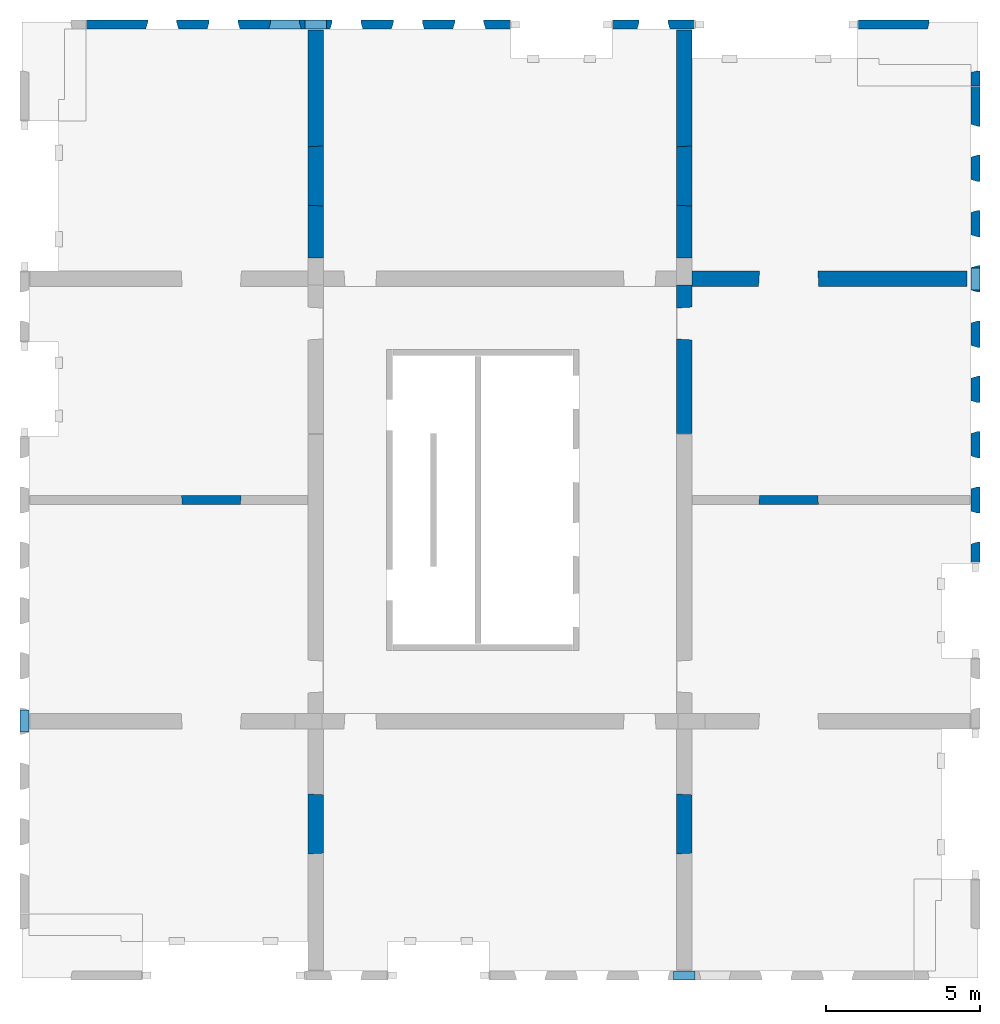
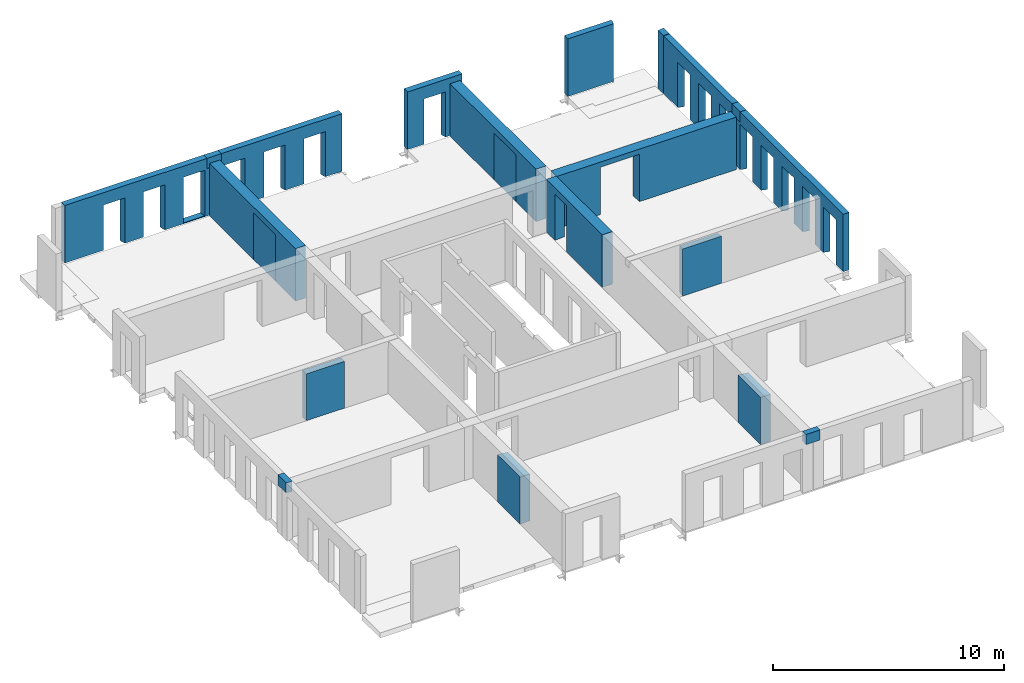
# One storey, part 4 of 4: 21 walls, 25 openings.
"""IFC2X3 building model written with IfcOpenShell, lengths in millimetres."""

from ifc_helpers import new_model, entity, si_unit, converted_unit, derived_unit, direction, frame, frame_2d, origin, place, context, subcontext, project, spatial, rectangle, extrude, faceted_brep, material, layer, layer_set, layer_usage, type_object, element, save


model = new_model("IFC2X3")

# Units and contexts
model_context = context("Model", 3, precision=0.01, world=origin(), true_north=direction((6.12303176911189e-17, 1.0)))
body_context = subcontext(model_context, "Body", "Model", "MODEL_VIEW")
ifc_project = project(units=[si_unit("LENGTHUNIT", "METRE", prefix="MILLI"), si_unit("AREAUNIT", "SQUARE_METRE"), si_unit("VOLUMEUNIT", "CUBIC_METRE"), converted_unit("PLANEANGLEUNIT", "DEGREE", entity("IfcRatioMeasure", 0.0174532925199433), si_unit("PLANEANGLEUNIT", "RADIAN"), dimensions=[0, 0, 0, 0, 0, 0, 0]), si_unit("MASSUNIT", "GRAM", prefix="KILO"), derived_unit("MASSDENSITYUNIT", [(si_unit("MASSUNIT", "GRAM", prefix="KILO"), 1), (si_unit("LENGTHUNIT", "METRE"), -3)]), si_unit("TIMEUNIT", "SECOND"), si_unit("FREQUENCYUNIT", "HERTZ"), si_unit("THERMODYNAMICTEMPERATUREUNIT", "DEGREE_CELSIUS"), derived_unit("THERMALTRANSMITTANCEUNIT", [(si_unit("MASSUNIT", "GRAM", prefix="KILO"), 1), (si_unit("THERMODYNAMICTEMPERATUREUNIT", "KELVIN"), -1), (si_unit("TIMEUNIT", "SECOND"), -3)]), derived_unit("VOLUMETRICFLOWRATEUNIT", [(si_unit("LENGTHUNIT", "METRE"), 3), (si_unit("TIMEUNIT", "SECOND"), -1)]), si_unit("ELECTRICCURRENTUNIT", "AMPERE"), si_unit("ELECTRICVOLTAGEUNIT", "VOLT"), si_unit("POWERUNIT", "WATT"), si_unit("FORCEUNIT", "NEWTON", prefix="KILO"), si_unit("ILLUMINANCEUNIT", "LUX"), si_unit("LUMINOUSFLUXUNIT", "LUMEN"), si_unit("LUMINOUSINTENSITYUNIT", "CANDELA"), derived_unit("USERDEFINED", [(si_unit("MASSUNIT", "GRAM", prefix="KILO"), -1), (si_unit("LENGTHUNIT", "METRE"), -2), (si_unit("TIMEUNIT", "SECOND"), 3), (si_unit("LUMINOUSFLUXUNIT", "LUMEN"), 1)]), derived_unit("LINEARVELOCITYUNIT", [(si_unit("LENGTHUNIT", "METRE"), 1), (si_unit("TIMEUNIT", "SECOND"), -1)]), si_unit("PRESSUREUNIT", "PASCAL"), derived_unit("USERDEFINED", [(si_unit("LENGTHUNIT", "METRE"), -2), (si_unit("MASSUNIT", "GRAM", prefix="KILO"), 1), (si_unit("TIMEUNIT", "SECOND"), -2)])], contexts=[model_context])

# Site, building, storey
site_placement = place(None, origin())
site = spatial("IfcSite", under=ifc_project, at=site_placement, Name="Default", CompositionType="ELEMENT")
building_placement = place(site_placement, origin())
building = spatial("IfcBuilding", under=site, at=building_placement, Name="niet gebruiken", CompositionType="ELEMENT")
storey_placement = place(building_placement, frame((0.0, 0.0, 63900.0)))
storey = spatial("IfcBuildingStorey", under=building, at=storey_placement, Name="20 twintigste verdieping", CompositionType="ELEMENT", Elevation=63900.0000000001)

# Walls
ifc_material_1 = material(Name="NLRS_f2_beton ihwg")
ifc_layer_1 = layer(ifc_material_1, 300.0)
ifc_layer_set_1 = layer_set([ifc_layer_1], Name="Basic Wall:NLRS_21.21_WA_beton ihwg d=300_gen")
ifc_layer_usage_1 = layer_usage(ifc_layer_set_1, "AXIS2", "NEGATIVE", 150.0)
wall_type_1 = type_object("IfcWallType", Name="Basic Wall:NLRS_21.21_WA_beton ihwg d=300_gen", PredefinedType="STANDARD", material=ifc_layer_set_1)
wall_1_placement = place(storey_placement, frame((148105.0, 2020.0, 2455.0), z_axis=(0.0, 0.0, 1.0), x_axis=(-1.0, 0.0, 0.0)))
element("IfcWallStandardCase", 1, at=wall_1_placement, inside=storey, type_object=wall_type_1, material=ifc_layer_usage_1, Name="Basic Wall:NLRS_21.21_WA_beton ihwg d=300_gen", ObjectType="Basic Wall:NLRS_21.21_WA_beton ihwg d=300_gen", context=body_context, shape_type="SweptSolid", body=[
    extrude(rectangle(XDim=710.000000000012, YDim=300.0, at=frame_2d((355.000000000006, -1.4210854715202e-14), x_axis=(-1.0, 0.0))), origin(), (0.0, 0.0, 1.0), 535.0),
])
ifc_layer_usage_2 = layer_usage(ifc_layer_set_1, "AXIS2", "NEGATIVE", 150.0)
wall_2_placement = place(storey_placement, frame((135395.0, 32980.0, 2455.0)))
element("IfcWallStandardCase", 2, at=wall_2_placement, inside=storey, type_object=wall_type_1, material=ifc_layer_usage_2, Name="Basic Wall:NLRS_21.21_WA_beton ihwg d=300_gen", ObjectType="Basic Wall:NLRS_21.21_WA_beton ihwg d=300_gen", context=body_context, shape_type="SweptSolid", body=[
    extrude(rectangle(XDim=710.000000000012, YDim=300.000000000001, at=frame_2d((355.000000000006, 0.0), x_axis=(-1.0, 0.0))), origin(), (0.0, 0.0, 1.0), 535.0),
])
ifc_layer_usage_3 = layer_usage(ifc_layer_set_1, "AXIS2", "NEGATIVE", 150.0)
wall_3_placement = place(storey_placement, frame((157230.0, 25055.0, 2455.0), z_axis=(0.0, 0.0, 1.0), x_axis=(0.0, -1.0, 0.0)))
element("IfcWallStandardCase", 3, at=wall_3_placement, inside=storey, type_object=wall_type_1, material=ifc_layer_usage_3, Name="Basic Wall:NLRS_21.21_WA_beton ihwg d=300_gen", ObjectType="Basic Wall:NLRS_21.21_WA_beton ihwg d=300_gen", context=body_context, shape_type="SweptSolid", body=[
    extrude(rectangle(XDim=710.000000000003, YDim=300.000000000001, at=frame_2d((355.000000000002, 9.9475983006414e-13), x_axis=(-1.0, 0.0))), origin(), (0.0, 0.0, 1.0), 535.0),
])
ifc_layer_usage_4 = layer_usage(ifc_layer_set_1, "AXIS2", "NEGATIVE", 150.0)
wall_4_placement = place(storey_placement, frame((126270.0, 9945.0, 2455.0), z_axis=(0.0, 0.0, 1.0), x_axis=(0.0, 1.0, 0.0)))
element("IfcWallStandardCase", 4, at=wall_4_placement, inside=storey, type_object=wall_type_1, material=ifc_layer_usage_4, Name="Basic Wall:NLRS_21.21_WA_beton ihwg d=300_gen", ObjectType="Basic Wall:NLRS_21.21_WA_beton ihwg d=300_gen", context=body_context, shape_type="SweptSolid", body=[
    extrude(rectangle(XDim=710.000000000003, YDim=300.000000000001, at=frame_2d((355.000000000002, 0.0), x_axis=(-1.0, 0.0))), origin(), (0.0, 0.0, 1.0), 535.0),
])

# Wall, opening
ifc_material_2 = material(Name="NLRS_f2_beton prefab")
ifc_layer_2 = layer(ifc_material_2, 500.0)
ifc_layer_set_2 = layer_set([ifc_layer_2], Name="Basic Wall:NLRS_22.21_WA_beton prefab d=500_gen")
ifc_layer_usage_5 = layer_usage(ifc_layer_set_2, "AXIS2", "NEGATIVE", 250.0)
wall_type_2 = type_object("IfcWallType", Name="Basic Wall:NLRS_22.21_WA_beton prefab d=500_gen", PredefinedType="STANDARD", material=ifc_layer_set_2)
wall_5_placement = place(storey_placement, frame((156960.0, 24700.0, -70.0), z_axis=(0.0, 0.0, 1.0), x_axis=(-1.0, 0.0, 0.0)))
wall_5 = element("IfcWallStandardCase", 5, at=wall_5_placement, inside=storey, type_object=wall_type_2, material=ifc_layer_usage_5, Name="Basic Wall:NLRS_22.21_WA_beton prefab d=500_gen", ObjectType="Basic Wall:NLRS_22.21_WA_beton prefab d=500_gen", context=body_context, shape_type="SweptSolid", body=[
    extrude(rectangle(XDim=8960.00000000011, YDim=499.999999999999, at=frame_2d((4480.00000000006, 5.6843418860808e-13), x_axis=(-1.0, 0.0))), origin(), (0.0, 0.0, 1.0), 2769.99999999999),
])
opening_1_placement = place(wall_5_placement, frame((6790.0, 250.0, 0.0)))
element("IfcOpeningElement", 6, at=opening_1_placement, cuts=wall_5, Name="Basic Wall:NLRS_22.21_WA_beton prefab d=500_gen", ObjectType="Opening", context=body_context, shape_type="Brep", body=[
    faceted_brep([(-30.0, -500.0, 2470.0), (-1930.0, -500.0, 2470.0), (-1930.0, -500.0, 0.0), (-30.0, -500.0, 0.0), (0.0, 0.0, 2500.0), (0.0, 0.0, 0.0), (-1960.0, 0.0, 0.0), (-1960.0, 0.0, 2500.0)], [[[0, 1, 2, 3]], [[4, 5, 6, 7]], [[4, 7, 1, 0]], [[7, 6, 2, 1]], [[6, 5, 3, 2]], [[5, 4, 0, 3]]]),
])

ifc_layer_usage_6 = layer_usage(ifc_layer_set_2, "AXIS2", "NEGATIVE", 250.0)
wall_6_placement = place(storey_placement, frame((147750.0, 25380.0, -70.0), z_axis=(0.0, 0.0, 1.0), x_axis=(0.0, 1.0, 0.0)))
wall_6 = element("IfcWallStandardCase", 7, at=wall_6_placement, inside=storey, type_object=wall_type_2, material=ifc_layer_usage_6, Name="Basic Wall:NLRS_22.21_WA_beton prefab d=500_gen", ObjectType="Basic Wall:NLRS_22.21_WA_beton prefab d=500_gen", context=body_context, shape_type="SweptSolid", body=[
    extrude(rectangle(XDim=7430.00000000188, YDim=499.99999999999, at=frame_2d((3715.00000000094, 7.14805992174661e-12), x_axis=(-1.0, 0.0))), origin(), (0.0, 0.0, 1.0), 2769.99999999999),
])
opening_2_placement = place(wall_6_placement, frame((1690.0, 250.0, 0.0)))
element("IfcOpeningElement", 8, at=opening_2_placement, cuts=wall_6, Name="Basic Wall:NLRS_22.21_WA_beton prefab d=500_gen", ObjectType="Opening", context=body_context, shape_type="Brep", body=[
    faceted_brep([(1930.0, 0.0, 2470.0), (1930.0, 0.0, 0.0), (30.0, 0.0, 0.0), (30.0, 0.0, 2470.0), (1960.0, -500.0, 2500.0), (0.0, -500.0, 2500.0), (0.0, -500.0, 0.0), (1960.0, -500.0, 0.0)], [[[0, 1, 2, 3]], [[4, 5, 6, 7]], [[4, 0, 3, 5]], [[5, 3, 2, 6]], [[6, 2, 1, 7]], [[7, 1, 0, 4]]]),
])

ifc_layer_usage_7 = layer_usage(ifc_layer_set_2, "AXIS2", "NEGATIVE", 250.0)
wall_7_placement = place(storey_placement, frame((135750.0, 25380.0, -70.0), z_axis=(0.0, 0.0, 1.0), x_axis=(0.0, 1.0, 0.0)))
wall_7 = element("IfcWallStandardCase", 9, at=wall_7_placement, inside=storey, type_object=wall_type_2, material=ifc_layer_usage_7, Name="Basic Wall:NLRS_22.21_WA_beton prefab d=500_gen", ObjectType="Basic Wall:NLRS_22.21_WA_beton prefab d=500_gen", context=body_context, shape_type="SweptSolid", body=[
    extrude(rectangle(XDim=7429.99999999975, YDim=499.99999999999, at=frame_2d((3714.99999999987, -5.62749846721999e-12), x_axis=(-1.0, 0.0))), origin(), (0.0, 0.0, 1.0), 2769.99999999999),
])
opening_3_placement = place(wall_7_placement, frame((1690.0, 250.0, 0.0)))
element("IfcOpeningElement", 10, at=opening_3_placement, cuts=wall_7, Name="Basic Wall:NLRS_22.21_WA_beton prefab d=500_gen", ObjectType="Opening", context=body_context, shape_type="Brep", body=[
    faceted_brep([(1930.0, 0.0, 2470.0), (1930.0, 0.0, 0.0), (30.0, 0.0, 0.0), (30.0, 0.0, 2470.0), (1960.0, -500.0, 2500.0), (0.0, -500.0, 2500.0), (0.0, -500.0, 0.0), (1960.0, -500.0, 0.0)], [[[0, 1, 2, 3]], [[4, 5, 6, 7]], [[4, 0, 3, 5]], [[5, 3, 2, 6]], [[6, 2, 1, 7]], [[7, 1, 0, 4]]]),
])

ifc_layer_usage_8 = layer_usage(ifc_layer_set_2, "AXIS2", "NEGATIVE", 250.0)
wall_8_placement = place(storey_placement, frame((147750.0, 24500.0, -70.0), z_axis=(0.0, 0.0, 1.0), x_axis=(0.0, -1.0, 0.0)))
wall_8 = element("IfcWallStandardCase", 11, at=wall_8_placement, inside=storey, type_object=wall_type_2, material=ifc_layer_usage_8, Name="Basic Wall:NLRS_22.21_WA_beton prefab d=500_gen", ObjectType="Basic Wall:NLRS_22.21_WA_beton prefab d=500_gen", context=body_context, shape_type="SweptSolid", body=[
    extrude(rectangle(XDim=4840.00000000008, YDim=499.99999999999, at=frame_2d((2420.00000000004, 0.0), x_axis=(-1.0, 0.0))), origin(), (0.0, 0.0, 1.0), 2769.99999999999),
])
opening_4_placement = place(wall_8_placement, frame((1786.0, -250.0, 0.0)))
element("IfcOpeningElement", 12, at=opening_4_placement, cuts=wall_8, Name="Basic Wall:NLRS_22.21_WA_beton prefab d=500_gen", ObjectType="Opening", context=body_context, shape_type="Brep", body=[
    faceted_brep([(-1066.0, 500.0, 2478.0), (-1066.0, 500.0, 0.0), (-1036.0, 0.0, 0.0), (-1036.0, 0.0, 2448.0), (0.0, 500.0, 0.0), (-30.0, 0.0, 0.0), (-30.0, 0.0, 2448.0), (0.0, 500.0, 2478.0)], [[[0, 1, 2, 3]], [[1, 4, 5, 2]], [[6, 3, 2, 5]], [[7, 4, 1, 0]], [[7, 0, 3, 6]], [[4, 7, 6, 5]]]),
])

ifc_layer_3 = layer(ifc_material_2, 300.0)
ifc_layer_set_3 = layer_set([ifc_layer_3], Name="Basic Wall:NLRS_21.21_WA_beton prefab d=300/320_gen")
ifc_layer_usage_9 = layer_usage(ifc_layer_set_3, "AXIS2", "NEGATIVE", 150.0)
wall_type_3 = type_object("IfcWallType", Name="Basic Wall:NLRS_21.21_WA_beton prefab d=300/320_gen", PredefinedType="STANDARD", material=ifc_layer_set_3)
wall_9_placement = place(storey_placement, frame((145390.0, 32980.0, -50.0)))
wall_9 = element("IfcWallStandardCase", 13, at=wall_9_placement, inside=storey, type_object=wall_type_3, material=ifc_layer_usage_9, Name="Basic Wall:NLRS_21.21_WA_beton prefab d=300/320_gen", ObjectType="Basic Wall:NLRS_21.21_WA_beton prefab d=300/320_gen", context=body_context, shape_type="SweptSolid", body=[
    extrude(rectangle(XDim=2720.00000000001, YDim=300.000000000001, at=frame_2d((1360.0, -4.54747350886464e-13), x_axis=(-1.0, 0.0))), origin(), (0.0, 0.0, 1.0), 3040.0),
])
opening_5_placement = place(wall_9_placement, frame((825.0, -150.0, -20.0)))
element("IfcOpeningElement", 14, at=opening_5_placement, cuts=wall_9, Name="Basic Wall:NLRS_21.21_WA_beton prefab d=300/320_gen", ObjectType="Opening", context=body_context, shape_type="Brep", body=[
    faceted_brep([(0.0, 0.0, 2405.0), (0.0, 0.0, 0.0), (1070.0, 0.0, 0.0), (1070.0, 0.0, 2405.0), (1005.0, 219.0, 2370.0), (65.0, 219.0, 2370.0), (1005.0, 219.0, 0.0), (65.0, 219.0, 0.0), (65.0, 300.0, 0.0), (1005.0, 300.0, 0.0), (65.0, 300.0, 2370.0), (1005.0, 300.0, 2370.0)], [[[0, 1, 2, 3]], [[3, 4, 5, 0]], [[2, 6, 4, 3]], [[1, 7, 8, 9, 6, 2]], [[0, 5, 7, 1]], [[10, 11, 9, 8]], [[10, 5, 4, 11]], [[11, 4, 6, 9]], [[8, 7, 5, 10]]]),
])

# Wall, openings
ifc_layer_usage_10 = layer_usage(ifc_layer_set_3, "AXIS2", "NEGATIVE", 150.0)
wall_10_placement = place(storey_placement, frame((128290.0, 32980.0, -50.0)))
wall_10 = element("IfcWallStandardCase", 15, at=wall_10_placement, inside=storey, type_object=wall_type_3, material=ifc_layer_usage_10, Name="Basic Wall:NLRS_21.21_WA_beton prefab d=300/320_gen", ObjectType="Basic Wall:NLRS_21.21_WA_beton prefab d=300/320_gen", context=body_context, shape_type="SweptSolid", body=[
    extrude(rectangle(XDim=7449.9999999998, YDim=300.000000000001, at=frame_2d((3724.9999999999, 0.0), x_axis=(-1.0, 0.0))), origin(), (0.0, 0.0, 1.0), 3040.0),
])
opening_6_placement = place(wall_10_placement, frame((3925.0, -150.0, -20.0)))
element("IfcOpeningElement", 16, at=opening_6_placement, cuts=wall_10, Name="Basic Wall:NLRS_21.21_WA_beton prefab d=300/320_gen", ObjectType="Opening", context=body_context, shape_type="Brep", body=[
    faceted_brep([(1070.0, 0.0, 2405.0), (0.0, 0.0, 2405.0), (0.0, 0.0, 0.0), (1070.0, 0.0, 0.0), (1005.0, 219.0, 2370.0), (65.0, 219.0, 2370.0), (65.0, 219.0, 0.0), (65.0, 300.0, 0.0), (1005.0, 300.0, 0.0), (1005.0, 219.0, 0.0), (1005.0, 300.0, 2370.0), (65.0, 300.0, 2370.0)], [[[0, 1, 2, 3]], [[1, 0, 4, 5]], [[2, 1, 5, 6]], [[3, 2, 6, 7, 8, 9]], [[0, 3, 9, 4]], [[10, 8, 7, 11]], [[10, 11, 5, 4]], [[11, 7, 6, 5]], [[8, 10, 4, 9]]]),
])
opening_7_placement = place(wall_10_placement, frame((1925.0, -150.0, -20.0)))
element("IfcOpeningElement", 17, at=opening_7_placement, cuts=wall_10, Name="Basic Wall:NLRS_21.21_WA_beton prefab d=300/320_gen", ObjectType="Opening", context=body_context, shape_type="Brep", body=[
    faceted_brep([(1070.0, 0.0, 2405.0), (0.0, 0.0, 2405.0), (0.0, 0.0, 0.0), (1070.0, 0.0, 0.0), (1005.0, 219.0, 2370.0), (65.0, 219.0, 2370.0), (65.0, 219.0, 0.0), (65.0, 300.0, 0.0), (1005.0, 300.0, 0.0), (1005.0, 219.0, 0.0), (1005.0, 300.0, 2370.0), (65.0, 300.0, 2370.0)], [[[0, 1, 2, 3]], [[1, 0, 4, 5]], [[2, 1, 5, 6]], [[3, 2, 6, 7, 8, 9]], [[0, 3, 9, 4]], [[10, 8, 7, 11]], [[10, 11, 5, 4]], [[11, 7, 6, 5]], [[8, 10, 4, 9]]]),
])
opening_8_placement = place(wall_10_placement, frame((5925.0, -150.0, 50.0)))
element("IfcOpeningElement", 18, at=opening_8_placement, cuts=wall_10, Name="Basic Wall:NLRS_21.21_WA_beton prefab d=300/320_gen", ObjectType="Opening", context=body_context, shape_type="Brep", body=[
    faceted_brep([(1070.0, 0.0, 2405.0), (0.0, 0.0, 2405.0), (0.0, 0.0, 0.0), (1070.0, 0.0, 0.0), (1005.0, 219.0, 2370.0), (65.0, 219.0, 2370.0), (65.0, 219.0, 0.0), (65.0, 300.0, 0.0), (1005.0, 300.0, 0.0), (1005.0, 219.0, 0.0), (1005.0, 300.0, 2370.0), (65.0, 300.0, 2370.0)], [[[0, 1, 2, 3]], [[1, 0, 4, 5]], [[2, 1, 5, 6]], [[3, 2, 6, 7, 8, 9]], [[0, 3, 9, 4]], [[10, 8, 7, 11]], [[10, 11, 5, 4]], [[11, 7, 6, 5]], [[8, 10, 4, 9]]]),
])
opening_9_placement = place(wall_10_placement, origin())
element("IfcOpeningElement", 19, at=opening_9_placement, cuts=wall_10, Name="Basic Wall:NLRS_21.21_WA_beton prefab d=300/320_gen", ObjectType="Opening", context=body_context, shape_type="SweptSolid", body=[
    extrude(rectangle(XDim=534.999999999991, YDim=344.999999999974, at=frame_2d((-4.32009983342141e-12, 0.0), x_axis=(1.0, 0.0))), frame((7277.49999999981, 150.0, 2772.50000000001), z_axis=(0.0, -1.0, 0.0), x_axis=(0.0, 0.0, 1.0)), (0.0, 0.0, 1.0), 300.0),
])

ifc_layer_usage_11 = layer_usage(ifc_layer_set_3, "AXIS2", "NEGATIVE", 150.0)
wall_11_placement = place(storey_placement, frame((157230.0, 30960.0, -50.0), z_axis=(0.0, 0.0, 1.0), x_axis=(0.0, -1.0, 0.0)))
wall_11 = element("IfcWallStandardCase", 20, at=wall_11_placement, inside=storey, type_object=wall_type_3, material=ifc_layer_usage_11, Name="Basic Wall:NLRS_21.21_WA_beton prefab d=300/320_gen", ObjectType="Basic Wall:NLRS_21.21_WA_beton prefab d=300/320_gen", context=body_context, shape_type="SweptSolid", body=[
    extrude(rectangle(XDim=6249.99999999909, YDim=300.000000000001, at=frame_2d((3124.99999999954, -8.61177795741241e-12), x_axis=(-1.0, 0.0))), origin(), (0.0, 0.0, 1.0), 3039.99999999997),
])
opening_10_placement = place(wall_11_placement, frame((2295.0, -150.0, -20.0)))
element("IfcOpeningElement", 21, at=opening_10_placement, cuts=wall_11, Name="Basic Wall:NLRS_21.21_WA_beton prefab d=300/320_gen", ObjectType="Opening", context=body_context, shape_type="Brep", body=[
    faceted_brep([(-1070.0, 0.0, 2405.0), (-1070.0, 0.0, 0.0), (0.0, 0.0, 0.0), (0.0, 0.0, 2405.0), (-65.0, 219.0, 2370.0), (-1005.0, 219.0, 2370.0), (-65.0, 219.0, 0.0), (-1005.0, 219.0, 0.0), (-1005.0, 300.0, 0.0), (-65.0, 300.0, 0.0), (-1005.0, 300.0, 2370.0), (-65.0, 300.0, 2370.0)], [[[0, 1, 2, 3]], [[3, 4, 5, 0]], [[2, 6, 4, 3]], [[1, 7, 8, 9, 6, 2]], [[0, 5, 7, 1]], [[10, 11, 9, 8]], [[10, 5, 4, 11]], [[11, 4, 6, 9]], [[8, 7, 5, 10]]]),
])
opening_11_placement = place(wall_11_placement, frame((4095.0, -150.0, -20.0)))
element("IfcOpeningElement", 22, at=opening_11_placement, cuts=wall_11, Name="Basic Wall:NLRS_21.21_WA_beton prefab d=300/320_gen", ObjectType="Opening", context=body_context, shape_type="Brep", body=[
    faceted_brep([(-1070.0, 0.0, 2405.0), (-1070.0, 0.0, 0.0), (0.0, 0.0, 0.0), (0.0, 0.0, 2405.0), (-65.0, 219.0, 2370.0), (-1005.0, 219.0, 2370.0), (-65.0, 219.0, 0.0), (-1005.0, 219.0, 0.0), (-1005.0, 300.0, 0.0), (-65.0, 300.0, 0.0), (-1005.0, 300.0, 2370.0), (-65.0, 300.0, 2370.0)], [[[0, 1, 2, 3]], [[3, 4, 5, 0]], [[2, 6, 4, 3]], [[1, 7, 8, 9, 6, 2]], [[0, 5, 7, 1]], [[10, 11, 9, 8]], [[10, 5, 4, 11]], [[11, 4, 6, 9]], [[8, 7, 5, 10]]]),
])
opening_12_placement = place(wall_11_placement, frame((5895.0, -150.0, -20.0)))
element("IfcOpeningElement", 23, at=opening_12_placement, cuts=wall_11, Name="Basic Wall:NLRS_21.21_WA_beton prefab d=300/320_gen", ObjectType="Opening", context=body_context, shape_type="Brep", body=[
    faceted_brep([(-1070.0, 0.0, 2405.0), (-1070.0, 0.0, 0.0), (0.0, 0.0, 0.0), (0.0, 0.0, 2405.0), (-65.0, 219.0, 2370.0), (-1005.0, 219.0, 2370.0), (-65.0, 219.0, 0.0), (-1005.0, 219.0, 0.0), (-1005.0, 300.0, 0.0), (-65.0, 300.0, 0.0), (-1005.0, 300.0, 2370.0), (-65.0, 300.0, 2370.0)], [[[0, 1, 2, 3]], [[3, 4, 5, 0]], [[2, 6, 4, 3]], [[1, 7, 8, 9, 6, 2]], [[0, 5, 7, 1]], [[10, 11, 9, 8]], [[10, 5, 4, 11]], [[11, 4, 6, 9]], [[8, 7, 5, 10]]]),
])
opening_13_placement = place(wall_11_placement, origin())
element("IfcOpeningElement", 24, at=opening_13_placement, cuts=wall_11, Name="Basic Wall:NLRS_21.21_WA_beton prefab d=300/320_gen", ObjectType="Opening", context=body_context, shape_type="SweptSolid", body=[
    extrude(rectangle(XDim=534.99999999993, YDim=344.999999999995, at=frame_2d((0.0, -2.17426077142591e-12), x_axis=(1.0, 0.0))), frame((6077.49999999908, 150.0, 2772.5), z_axis=(0.0, -1.0, 0.0), x_axis=(0.0, 0.0, 1.0)), (0.0, 0.0, 1.0), 300.0),
])

# Wall, opening
ifc_layer_usage_12 = layer_usage(ifc_layer_set_3, "AXIS2", "NEGATIVE", 150.0)
wall_12_placement = place(storey_placement, frame((153390.0, 32980.0, -50.0)))
wall_12 = element("IfcWallStandardCase", 25, at=wall_12_placement, inside=storey, type_object=wall_type_3, material=ifc_layer_usage_12, Name="Basic Wall:NLRS_21.21_WA_beton prefab d=300/320_gen", ObjectType="Basic Wall:NLRS_21.21_WA_beton prefab d=300/320_gen", context=body_context, shape_type="SweptSolid", body=[
    extrude(rectangle(XDim=2330.00000000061, YDim=300.000000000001, at=frame_2d((1165.00000000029, -1.29318777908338e-12), x_axis=(-1.0, 0.0))), origin(), (0.0, 0.0, 1.0), 3040.0),
])
opening_14_placement = place(wall_12_placement, frame((2265.0, -250.0, 0.0)))
element("IfcOpeningElement", 26, at=opening_14_placement, cuts=wall_12, Name="Basic Wall:NLRS_21.21_WA_beton prefab d=300/320_gen", ObjectType="Opening", context=body_context, shape_type="Brep", body=[
    faceted_brep([(65.0, 0.0, 3040.0), (65.0, 319.0, 3040.0), (0.0, 0.0, 3040.0), (65.0, 0.0, 0.0), (0.0, 0.0, 0.0), (65.0, 319.0, 0.0)], [[[0, 1, 2]], [[3, 4, 5]], [[2, 4, 3, 0]], [[0, 3, 5, 1]], [[1, 5, 4, 2]]]),
])

ifc_layer_usage_13 = layer_usage(ifc_layer_set_3, "AXIS2", "NEGATIVE", 150.0)
wall_13_placement = place(storey_placement, frame((157230.0, 31470.0, -50.0), z_axis=(0.0, 0.0, 1.0), x_axis=(0.0, -1.0, 0.0)))
wall_13 = element("IfcWallStandardCase", 27, at=wall_13_placement, inside=storey, type_object=wall_type_3, material=ifc_layer_usage_13, Name="Basic Wall:NLRS_21.21_WA_beton prefab d=300/320_gen", ObjectType="Basic Wall:NLRS_21.21_WA_beton prefab d=300/320_gen", context=body_context, shape_type="SweptSolid", body=[
    extrude(rectangle(XDim=489.999999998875, YDim=300.000000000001, at=frame_2d((244.999999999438, -7.8159700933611e-13), x_axis=(-1.0, 0.0))), origin(), (0.0, 0.0, 1.0), 3040.0),
])
opening_15_placement = place(wall_13_placement, frame((65.0, -250.0, 0.0)))
element("IfcOpeningElement", 28, at=opening_15_placement, cuts=wall_13, Name="Basic Wall:NLRS_21.21_WA_beton prefab d=300/320_gen", ObjectType="Opening", context=body_context, shape_type="Brep", body=[
    faceted_brep([(-65.0, 0.0, 3040.0), (0.0, 0.0, 3040.0), (-65.0, 319.0, 3040.0), (-65.0, 0.0, 0.0), (-65.0, 319.0, 0.0), (0.0, 0.0, 0.0)], [[[0, 1, 2]], [[3, 4, 5]], [[1, 0, 3, 5]], [[0, 2, 4, 3]], [[2, 1, 5, 4]]]),
])

# Wall, openings
ifc_layer_usage_14 = layer_usage(ifc_layer_set_3, "AXIS2", "NEGATIVE", 150.0)
wall_14_placement = place(storey_placement, frame((157230.0, 24690.0, -50.0), z_axis=(0.0, 0.0, 1.0), x_axis=(0.0, -1.0, 0.0)))
wall_14 = element("IfcWallStandardCase", 29, at=wall_14_placement, inside=storey, type_object=wall_type_3, material=ifc_layer_usage_14, Name="Basic Wall:NLRS_21.21_WA_beton prefab d=300/320_gen", ObjectType="Basic Wall:NLRS_21.21_WA_beton prefab d=300/320_gen", context=body_context, shape_type="SweptSolid", body=[
    extrude(rectangle(XDim=9250.00000000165, YDim=300.000000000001, at=frame_2d((4625.00000000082, -4.43378667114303e-12), x_axis=(-1.0, 0.0))), origin(), (0.0, 0.0, 1.0), 3040.0),
])
opening_16_placement = place(wall_14_placement, frame((8625.0, -150.0, -20.0)))
element("IfcOpeningElement", 30, at=opening_16_placement, cuts=wall_14, Name="Basic Wall:NLRS_21.21_WA_beton prefab d=300/320_gen", ObjectType="Opening", context=body_context, shape_type="Brep", body=[
    faceted_brep([(-1070.0, 0.0, 2405.0), (-1070.0, 0.0, 0.0), (0.0, 0.0, 0.0), (0.0, 0.0, 2405.0), (-65.0, 219.0, 2370.0), (-1005.0, 219.0, 2370.0), (-65.0, 219.0, 0.0), (-1005.0, 219.0, 0.0), (-1005.0, 300.0, 0.0), (-65.0, 300.0, 0.0), (-1005.0, 300.0, 2370.0), (-65.0, 300.0, 2370.0)], [[[0, 1, 2, 3]], [[3, 4, 5, 0]], [[2, 6, 4, 3]], [[1, 7, 8, 9, 6, 2]], [[0, 5, 7, 1]], [[10, 11, 9, 8]], [[10, 5, 4, 11]], [[11, 4, 6, 9]], [[8, 7, 5, 10]]]),
])
opening_17_placement = place(wall_14_placement, frame((5025.0, -150.0, -20.0)))
element("IfcOpeningElement", 31, at=opening_17_placement, cuts=wall_14, Name="Basic Wall:NLRS_21.21_WA_beton prefab d=300/320_gen", ObjectType="Opening", context=body_context, shape_type="Brep", body=[
    faceted_brep([(-1070.0, 0.0, 2405.0), (-1070.0, 0.0, 0.0), (0.0, 0.0, 0.0), (0.0, 0.0, 2405.0), (-65.0, 219.0, 2370.0), (-1005.0, 219.0, 2370.0), (-65.0, 219.0, 0.0), (-1005.0, 219.0, 0.0), (-1005.0, 300.0, 0.0), (-65.0, 300.0, 0.0), (-1005.0, 300.0, 2370.0), (-65.0, 300.0, 2370.0)], [[[0, 1, 2, 3]], [[3, 4, 5, 0]], [[2, 6, 4, 3]], [[1, 7, 8, 9, 6, 2]], [[0, 5, 7, 1]], [[10, 11, 9, 8]], [[10, 5, 4, 11]], [[11, 4, 6, 9]], [[8, 7, 5, 10]]]),
])
opening_18_placement = place(wall_14_placement, frame((3225.0, -150.0, -20.0)))
element("IfcOpeningElement", 32, at=opening_18_placement, cuts=wall_14, Name="Basic Wall:NLRS_21.21_WA_beton prefab d=300/320_gen", ObjectType="Opening", context=body_context, shape_type="Brep", body=[
    faceted_brep([(-1070.0, 0.0, 2405.0), (-1070.0, 0.0, 0.0), (0.0, 0.0, 0.0), (0.0, 0.0, 2405.0), (-65.0, 219.0, 2370.0), (-1005.0, 219.0, 2370.0), (-65.0, 219.0, 0.0), (-1005.0, 219.0, 0.0), (-1005.0, 300.0, 0.0), (-65.0, 300.0, 0.0), (-1005.0, 300.0, 2370.0), (-65.0, 300.0, 2370.0)], [[[0, 1, 2, 3]], [[3, 4, 5, 0]], [[2, 6, 4, 3]], [[1, 7, 8, 9, 6, 2]], [[0, 5, 7, 1]], [[10, 11, 9, 8]], [[10, 5, 4, 11]], [[11, 4, 6, 9]], [[8, 7, 5, 10]]]),
])
opening_19_placement = place(wall_14_placement, frame((6825.0, -150.0, -20.0)))
element("IfcOpeningElement", 33, at=opening_19_placement, cuts=wall_14, Name="Basic Wall:NLRS_21.21_WA_beton prefab d=300/320_gen", ObjectType="Opening", context=body_context, shape_type="Brep", body=[
    faceted_brep([(-1070.0, 0.0, 2405.0), (-1070.0, 0.0, 0.0), (0.0, 0.0, 0.0), (0.0, 0.0, 2405.0), (-65.0, 219.0, 2370.0), (-1005.0, 219.0, 2370.0), (-65.0, 219.0, 0.0), (-1005.0, 219.0, 0.0), (-1005.0, 300.0, 0.0), (-65.0, 300.0, 0.0), (-1005.0, 300.0, 2370.0), (-65.0, 300.0, 2370.0)], [[[0, 1, 2, 3]], [[3, 4, 5, 0]], [[2, 6, 4, 3]], [[1, 7, 8, 9, 6, 2]], [[0, 5, 7, 1]], [[10, 11, 9, 8]], [[10, 5, 4, 11]], [[11, 4, 6, 9]], [[8, 7, 5, 10]]]),
])
opening_20_placement = place(wall_14_placement, frame((1425.0, -150.0, -20.0)))
element("IfcOpeningElement", 34, at=opening_20_placement, cuts=wall_14, Name="Basic Wall:NLRS_21.21_WA_beton prefab d=300/320_gen", ObjectType="Opening", context=body_context, shape_type="Brep", body=[
    faceted_brep([(0.0, 0.0, 2405.0), (-1070.0, 0.0, 2405.0), (-1070.0, 0.0, 0.0), (0.0, 0.0, 0.0), (-65.0, 219.0, 2370.0), (-1005.0, 219.0, 2370.0), (-1005.0, 219.0, 0.0), (-1005.0, 300.0, 0.0), (-65.0, 300.0, 0.0), (-65.0, 219.0, 0.0), (-65.0, 300.0, 2370.0), (-1005.0, 300.0, 2370.0)], [[[0, 1, 2, 3]], [[1, 0, 4, 5]], [[2, 1, 5, 6]], [[3, 2, 6, 7, 8, 9]], [[0, 3, 9, 4]], [[10, 8, 7, 11]], [[10, 11, 5, 4]], [[11, 7, 6, 5]], [[8, 10, 4, 9]]]),
])
opening_21_placement = place(wall_14_placement, origin())
element("IfcOpeningElement", 35, at=opening_21_placement, cuts=wall_14, Name="Basic Wall:NLRS_21.21_WA_beton prefab d=300/320_gen", ObjectType="Opening", context=body_context, shape_type="SweptSolid", body=[
    extrude(rectangle(XDim=534.999999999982, YDim=345.000000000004, at=frame_2d((-2.1600499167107e-12, 8.66862137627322e-12), x_axis=(0.0, 1.0))), frame((172.5, 150.0, 2772.50000000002), z_axis=(0.0, -1.0, 0.0), x_axis=(-1.0, 0.0, 0.0)), (0.0, 0.0, 1.0), 300.0),
])

ifc_layer_usage_15 = layer_usage(ifc_layer_set_3, "AXIS2", "NEGATIVE", 150.0)
wall_15_placement = place(storey_placement, frame((135760.0, 32980.0, -50.0)))
wall_15 = element("IfcWallStandardCase", 36, at=wall_15_placement, inside=storey, type_object=wall_type_3, material=ifc_layer_usage_15, Name="Basic Wall:NLRS_21.21_WA_beton prefab d=300/320_gen", ObjectType="Basic Wall:NLRS_21.21_WA_beton prefab d=300/320_gen", context=body_context, shape_type="SweptSolid", body=[
    extrude(rectangle(XDim=6350.00000000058, YDim=300.000000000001, at=frame_2d((3175.00000000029, 0.0), x_axis=(-1.0, 0.0))), origin(), (0.0, 0.0, 1.0), 3040.0),
])
opening_22_placement = place(wall_15_placement, frame((455.0, -150.0, -20.0)))
element("IfcOpeningElement", 37, at=opening_22_placement, cuts=wall_15, Name="Basic Wall:NLRS_21.21_WA_beton prefab d=300/320_gen", ObjectType="Opening", context=body_context, shape_type="Brep", body=[
    faceted_brep([(1070.0, 0.0, 2405.0), (0.0, 0.0, 2405.0), (0.0, 0.0, 0.0), (1070.0, 0.0, 0.0), (1005.0, 219.0, 2370.0), (65.0, 219.0, 2370.0), (65.0, 219.0, 0.0), (65.0, 300.0, 0.0), (1005.0, 300.0, 0.0), (1005.0, 219.0, 0.0), (1005.0, 300.0, 2370.0), (65.0, 300.0, 2370.0)], [[[0, 1, 2, 3]], [[1, 0, 4, 5]], [[2, 1, 5, 6]], [[3, 2, 6, 7, 8, 9]], [[0, 3, 9, 4]], [[10, 8, 7, 11]], [[10, 11, 5, 4]], [[11, 7, 6, 5]], [[8, 10, 4, 9]]]),
])
opening_23_placement = place(wall_15_placement, frame((2455.0, -150.0, -20.0)))
element("IfcOpeningElement", 38, at=opening_23_placement, cuts=wall_15, Name="Basic Wall:NLRS_21.21_WA_beton prefab d=300/320_gen", ObjectType="Opening", context=body_context, shape_type="Brep", body=[
    faceted_brep([(1070.0, 0.0, 2405.0), (0.0, 0.0, 2405.0), (0.0, 0.0, 0.0), (1070.0, 0.0, 0.0), (1005.0, 219.0, 2370.0), (65.0, 219.0, 2370.0), (65.0, 219.0, 0.0), (65.0, 300.0, 0.0), (1005.0, 300.0, 0.0), (1005.0, 219.0, 0.0), (1005.0, 300.0, 2370.0), (65.0, 300.0, 2370.0)], [[[0, 1, 2, 3]], [[1, 0, 4, 5]], [[2, 1, 5, 6]], [[3, 2, 6, 7, 8, 9]], [[0, 3, 9, 4]], [[10, 8, 7, 11]], [[10, 11, 5, 4]], [[11, 7, 6, 5]], [[8, 10, 4, 9]]]),
])
opening_24_placement = place(wall_15_placement, frame((4455.0, -150.0, -20.0)))
element("IfcOpeningElement", 39, at=opening_24_placement, cuts=wall_15, Name="Basic Wall:NLRS_21.21_WA_beton prefab d=300/320_gen", ObjectType="Opening", context=body_context, shape_type="Brep", body=[
    faceted_brep([(1070.0, 0.0, 2405.0), (0.0, 0.0, 2405.0), (0.0, 0.0, 0.0), (1070.0, 0.0, 0.0), (1005.0, 219.0, 2370.0), (65.0, 219.0, 2370.0), (65.0, 219.0, 0.0), (65.0, 300.0, 0.0), (1005.0, 300.0, 0.0), (1005.0, 219.0, 0.0), (1005.0, 300.0, 2370.0), (65.0, 300.0, 2370.0)], [[[0, 1, 2, 3]], [[1, 0, 4, 5]], [[2, 1, 5, 6]], [[3, 2, 6, 7, 8, 9]], [[0, 3, 9, 4]], [[10, 8, 7, 11]], [[10, 11, 5, 4]], [[11, 7, 6, 5]], [[8, 10, 4, 9]]]),
])
opening_25_placement = place(wall_15_placement, origin())
element("IfcOpeningElement", 40, at=opening_25_placement, cuts=wall_15, Name="Basic Wall:NLRS_21.21_WA_beton prefab d=300/320_gen", ObjectType="Opening", context=body_context, shape_type="SweptSolid", body=[
    extrude(rectangle(XDim=534.999999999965, YDim=345.000000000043, at=frame_2d((0.0, 0.0), x_axis=(0.0, 1.0))), frame((172.500000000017, 150.0, 2772.50000000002), z_axis=(0.0, -1.0, 0.0), x_axis=(-1.0, 0.0, 0.0)), (0.0, 0.0, 1.0), 300.0),
])

# Walls
ifc_material_3 = material(Name="NLRS_f2_beton prefab dichtstorten")
wall_type_4 = type_object("IfcWallType", Name="Parametric Wall:NLRS_22.21_WA_beton prefab d=500 1900x2470_gen", PredefinedType="NOTDEFINED", material=ifc_material_3)
wall_16_placement = place(storey_placement, frame((135500.0, 5970.0, -70.0), z_axis=(0.0, 0.0, 1.0), x_axis=(0.0, 1.0, 0.0)))
element("IfcWall", 41, at=wall_16_placement, inside=storey, type_object=wall_type_4, material=ifc_material_3, Name="Parametric Wall:NLRS_22.21_WA_beton prefab d=500 1900x2470_gen", ObjectType="Parametric Wall:NLRS_22.21_WA_beton prefab d=500 1900x2470_gen", context=body_context, shape_type="Brep", body=[
    faceted_brep([(1960.0, 0.0, 2500.0), (1960.0, 0.0, 0.0), (0.0, 0.0, 0.0), (0.0, 0.0, 2500.0), (1930.0, -500.0, 2470.0), (30.0, -500.0, 2470.0), (30.0, -500.0, 0.0), (1930.0, -500.0, 0.0)], [[[0, 1, 2, 3]], [[4, 5, 6, 7]], [[4, 7, 1, 0]], [[7, 6, 2, 1]], [[6, 5, 3, 2]], [[5, 4, 0, 3]]]),
])
for number, where, z_axis, x_axis in (
    (42, (147500.0, 27070.0, -70.0), (0.0, 0.0, 1.0), (0.0, 1.0, 0.0)),
    (43, (135500.0, 27070.0, -70.0), (0.0, 0.0, 1.0), (0.0, 1.0, 0.0)),
):
    element("IfcWall", number, at=place(storey_placement, frame(where, z_axis=z_axis, x_axis=x_axis)), inside=storey, type_object=wall_type_4, material=ifc_material_3, Name="Parametric Wall:NLRS_22.21_WA_beton prefab d=500 1900x2470_gen", ObjectType="Parametric Wall:NLRS_22.21_WA_beton prefab d=500 1900x2470_gen", context=body_context, shape_type="Brep", body=[
        faceted_brep([(0.0, -500.0, 2500.0), (0.0, -500.0, 0.0), (1960.0, -500.0, 0.0), (1960.0, -500.0, 2500.0), (30.0, 0.0, 2470.0), (1930.0, 0.0, 2470.0), (1930.0, 0.0, 0.0), (30.0, 0.0, 0.0)], [[[0, 1, 2, 3]], [[4, 5, 6, 7]], [[4, 7, 1, 0]], [[7, 6, 2, 1]], [[6, 5, 3, 2]], [[5, 4, 0, 3]]]),
    ])
wall_17_placement = place(storey_placement, frame((147500.0, 5970.0, -70.0), z_axis=(0.0, 0.0, 1.0), x_axis=(0.0, 1.0, 0.0)))
element("IfcWall", 44, at=wall_17_placement, inside=storey, type_object=wall_type_4, material=ifc_material_3, Name="Parametric Wall:NLRS_22.21_WA_beton prefab d=500 1900x2470_gen", ObjectType="Parametric Wall:NLRS_22.21_WA_beton prefab d=500 1900x2470_gen", context=body_context, shape_type="Brep", body=[
    faceted_brep([(1960.0, 0.0, 2500.0), (1960.0, 0.0, 0.0), (0.0, 0.0, 0.0), (0.0, 0.0, 2500.0), (1930.0, -500.0, 2470.0), (30.0, -500.0, 2470.0), (30.0, -500.0, 0.0), (1930.0, -500.0, 0.0)], [[[0, 1, 2, 3]], [[4, 5, 6, 7]], [[4, 7, 1, 0]], [[7, 6, 2, 1]], [[6, 5, 3, 2]], [[5, 4, 0, 3]]]),
])
wall_18_placement = place(storey_placement, frame((131382.0, 17350.0, -70.0)))
element("IfcWall", 45, at=wall_18_placement, inside=storey, type_object=wall_type_4, material=ifc_material_3, Name="Parametric Wall:NLRS_22.21_WA_beton prefab d=500 1900x2470_gen", ObjectType="Parametric Wall:NLRS_22.21_WA_beton prefab d=500 1900x2470_gen", context=body_context, shape_type="Brep", body=[
    faceted_brep([(1936.0, 300.0, 2488.0), (1936.0, 300.0, 0.0), (0.0, 300.0, 0.0), (0.0, 300.0, 2488.0), (1918.0, 0.0, 2470.0), (18.0, 0.0, 2470.0), (18.0, 0.0, 0.0), (1918.0, 0.0, 0.0)], [[[0, 1, 2, 3]], [[4, 5, 6, 7]], [[4, 7, 1, 0]], [[7, 6, 2, 1]], [[6, 5, 3, 2]], [[5, 4, 0, 3]]]),
])
wall_19_placement = place(storey_placement, frame((150182.0, 17350.0, -70.0)))
element("IfcWall", 46, at=wall_19_placement, inside=storey, type_object=wall_type_4, material=ifc_material_3, Name="Parametric Wall:NLRS_22.21_WA_beton prefab d=500 1900x2470_gen", ObjectType="Parametric Wall:NLRS_22.21_WA_beton prefab d=500 1900x2470_gen", context=body_context, shape_type="Brep", body=[
    faceted_brep([(0.0, 0.0, 2488.0), (0.0, 0.0, 0.0), (1936.0, 0.0, 0.0), (1936.0, 0.0, 2488.0), (18.0, 300.0, 2470.0), (1918.0, 300.0, 2470.0), (1918.0, 300.0, 0.0), (18.0, 300.0, 0.0)], [[[0, 1, 2, 3]], [[4, 5, 6, 7]], [[4, 7, 1, 0]], [[7, 6, 2, 1]], [[6, 5, 3, 2]], [[5, 4, 0, 3]]]),
])

save(model, "model.ifc")
